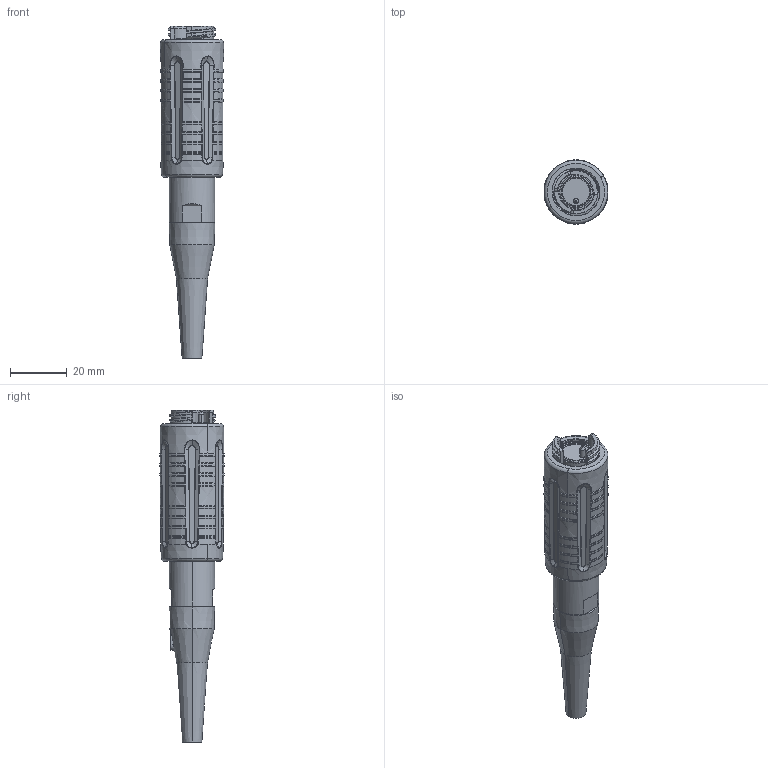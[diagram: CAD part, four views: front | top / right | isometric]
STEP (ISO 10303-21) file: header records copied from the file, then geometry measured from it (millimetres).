
FILE_DESCRIPTION (( 'STEP AP214' ), '1' );
FILE_NAME ('QMICRO-PHHX-XXXX-SXX.STEP', '2025-05-02T23:43:57', ( '' ), ( '' ), 'SwSTEP 2.0', 'SolidWorks 2024', '' );
FILE_SCHEMA (( 'AUTOMOTIVE_DESIGN' ));
Length unit declared in the file: inch
Products named in the file (1): QMICRO-PHHX-XXXX-SXX
Bounding box: 22.5 x 22.71 x 117.08 mm (x, y, z)
Volume: 24747.6 mm3; surface area: 9113.7 mm2
Topology: 1 solids, 6 shells, 1020 faces, 2638 edges, 1634 vertices
Faces by surface type: bspline 490, cone 200, torus 150, cylinder 88, plane 70, sphere 22
Entity records: 43615 total; most frequent: CARTESIAN_POINT 23311, ORIENTED_EDGE 5268, DIRECTION 3012, EDGE_CURVE 2634, VERTEX_POINT 1634, AXIS2_PLACEMENT_3D 1387, B_SPLINE_CURVE_WITH_KNOTS 1370, EDGE_LOOP 1036
